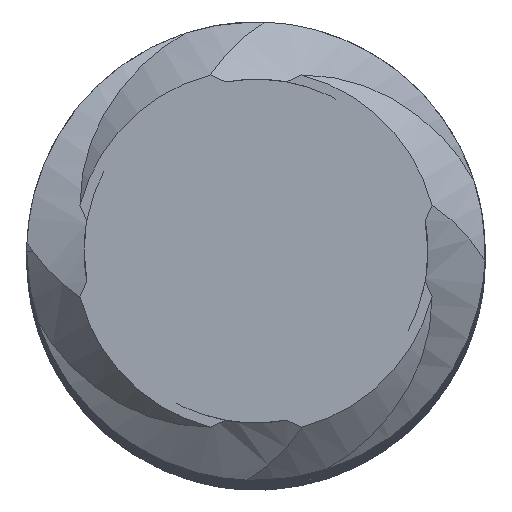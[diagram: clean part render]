
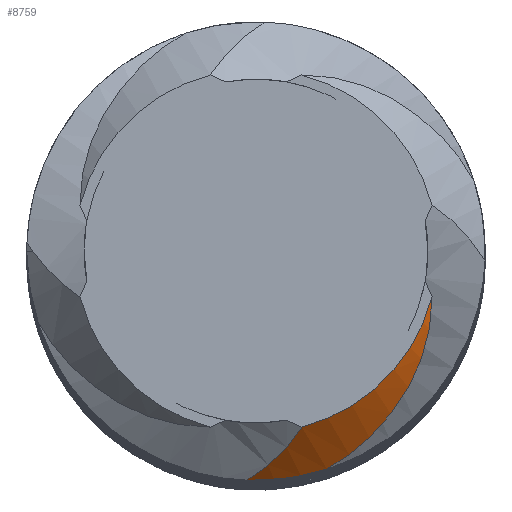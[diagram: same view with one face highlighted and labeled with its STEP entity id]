
A CAD part, top view. The second image highlights one B-rep face of the part: STEP entity #8759.
In plain terms, the highlighted conical face has half-angle 45 degrees and reference radius 7.154 mm.
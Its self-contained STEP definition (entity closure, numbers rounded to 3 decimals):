
#56 = CARTESIAN_POINT ( 'NONE',  ( 1.237, -3.804, 49.175 ) ) ;
#621 = DIRECTION ( 'NONE',  ( 0., 0., -1. ) ) ;
#3766 = CARTESIAN_POINT ( 'NONE',  ( 0.539, -3.427, 49.711 ) ) ;
#3829 = ORIENTED_EDGE ( 'NONE', *, *, #32562, .T. ) ;
#4582 = B_SPLINE_CURVE_WITH_KNOTS ( 'NONE', 3,
 ( #35123, #5533, #31404, #9834, #22659, #43850, #39758, #52599, #27124, #5917, #37323, #44595 ),
 .UNSPECIFIED., .F., .F.,
 ( 4, 2, 2, 2, 2, 4 ),
 ( 0., 0.001, 0.001, 0.002, 0.003, 0.004 ),
 .UNSPECIFIED. ) ;
#4941 = AXIS2_PLACEMENT_3D ( 'NONE', #8655, #13306, #38589 ) ;
#5064 = DIRECTION ( 'NONE',  ( -1., 0., 0. ) ) ;
#5533 = CARTESIAN_POINT ( 'NONE',  ( 3.073, -1.107, 49.922 ) ) ;
#5917 = CARTESIAN_POINT ( 'NONE',  ( 1.756, -3.463, 49.304 ) ) ;
#6539 = EDGE_CURVE ( 'NONE', #41269, #54794, #4582, .T. ) ;
#8602 = CARTESIAN_POINT ( 'NONE',  ( 0.036, -3.875, 49.304 ) ) ;
#8655 = CARTESIAN_POINT ( 'NONE',  ( 0., 0., 46.022 ) ) ;
#8669 = VERTEX_POINT ( 'NONE', #30601 ) ;
#8759 = ADVANCED_FACE ( 'NONE', ( #43421 ), #33444, .T. ) ;
#9170 = CARTESIAN_POINT ( 'NONE',  ( 0., 0., 50. ) ) ;
#9834 = CARTESIAN_POINT ( 'NONE',  ( 2.901, -1.85, 49.737 ) ) ;
#13306 = DIRECTION ( 'NONE',  ( 0., 0., -1. ) ) ;
#13833 = ORIENTED_EDGE ( 'NONE', *, *, #32437, .F. ) ;
#13859 = CARTESIAN_POINT ( 'NONE',  ( -0.157, -3.997, 49.175 ) ) ;
#14307 = EDGE_LOOP ( 'NONE', ( #13833, #29378, #3829, #33201 ) ) ;
#14902 = CARTESIAN_POINT ( 'NONE',  ( 3.073, -0.799, 50. ) ) ;
#21056 = CARTESIAN_POINT ( 'NONE',  ( -0.157, -3.997, 49.175 ) ) ;
#22659 = CARTESIAN_POINT ( 'NONE',  ( 2.847, -1.996, 49.701 ) ) ;
#25522 = CARTESIAN_POINT ( 'NONE',  ( -0.157, -3.997, 49.175 ) ) ;
#27113 = AXIS2_PLACEMENT_3D ( 'NONE', #9170, #621, #5064 ) ;
#27124 = CARTESIAN_POINT ( 'NONE',  ( 2.2, -3.04, 49.435 ) ) ;
#29260 = CARTESIAN_POINT ( 'NONE',  ( 0.315, -4.015, 49.175 ) ) ;
#29378 = ORIENTED_EDGE ( 'NONE', *, *, #6539, .F. ) ;
#29806 = CARTESIAN_POINT ( 'NONE',  ( 0.788, -3.95, 49.175 ) ) ;
#30074 = VERTEX_POINT ( 'NONE', #13859 ) ;
#30601 = CARTESIAN_POINT ( 'NONE',  ( 0.799, -3.073, 50. ) ) ;
#31404 = CARTESIAN_POINT ( 'NONE',  ( 3.03, -1.408, 49.847 ) ) ;
#31769 = CIRCLE ( 'NONE', #27113, 3.175 ) ;
#32437 = EDGE_CURVE ( 'NONE', #54794, #30074, #43690, .T. ) ;
#32562 = EDGE_CURVE ( 'NONE', #41269, #8669, #31769, .T. ) ;
#33201 = ORIENTED_EDGE ( 'NONE', *, *, #52259, .F. ) ;
#33444 = CONICAL_SURFACE ( 'NONE', #4941, 7.153, 0.785 ) ;
#33904 = CARTESIAN_POINT ( 'NONE',  ( 0.218, -3.737, 49.436 ) ) ;
#35123 = CARTESIAN_POINT ( 'NONE',  ( 3.073, -0.799, 50. ) ) ;
#37323 = CARTESIAN_POINT ( 'NONE',  ( 1.507, -3.649, 49.239 ) ) ;
#38303 = B_SPLINE_CURVE_WITH_KNOTS ( 'NONE', 3,
 ( #25522, #8602, #33904, #3766, #46358, #50626 ),
 .UNSPECIFIED., .F., .F.,
 ( 4, 2, 4 ),
 ( 0., 0.001, 0.002 ),
 .UNSPECIFIED. ) ;
#38589 = DIRECTION ( 'NONE',  ( -1., 0., 0. ) ) ;
#39758 = CARTESIAN_POINT ( 'NONE',  ( 2.647, -2.41, 49.599 ) ) ;
#41269 = VERTEX_POINT ( 'NONE', #14902 ) ;
#43421 = FACE_OUTER_BOUND ( 'NONE', #14307, .T. ) ;
#43593 = CARTESIAN_POINT ( 'NONE',  ( 1.237, -3.804, 49.175 ) ) ;
#43690 = B_SPLINE_CURVE_WITH_KNOTS ( 'NONE', 3,
 ( #56, #29806, #29260, #21056 ),
 .UNSPECIFIED., .F., .F.,
 ( 4, 4 ),
 ( 0., 0.001 ),
 .UNSPECIFIED. ) ;
#43850 = CARTESIAN_POINT ( 'NONE',  ( 2.72, -2.275, 49.632 ) ) ;
#44595 = CARTESIAN_POINT ( 'NONE',  ( 1.237, -3.804, 49.175 ) ) ;
#46358 = CARTESIAN_POINT ( 'NONE',  ( 0.68, -3.256, 49.853 ) ) ;
#50626 = CARTESIAN_POINT ( 'NONE',  ( 0.799, -3.073, 50. ) ) ;
#52259 = EDGE_CURVE ( 'NONE', #30074, #8669, #38303, .T. ) ;
#52599 = CARTESIAN_POINT ( 'NONE',  ( 2.399, -2.798, 49.501 ) ) ;
#54794 = VERTEX_POINT ( 'NONE', #43593 ) ;
